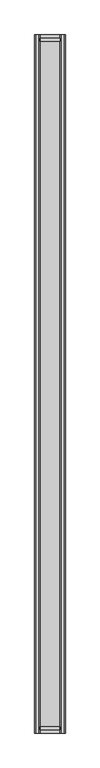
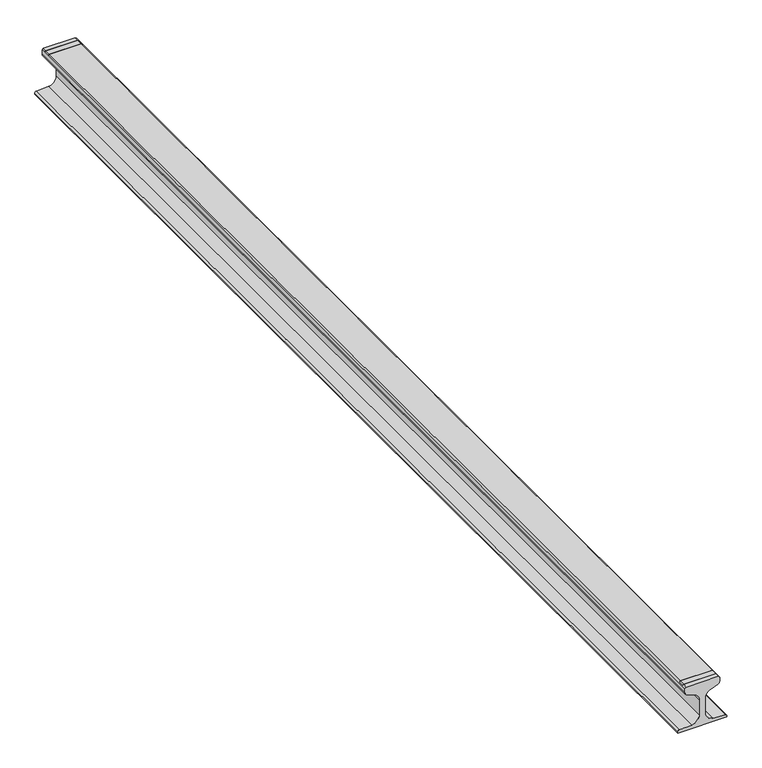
"""IFC4 building model written with IfcOpenShell, lengths in millimetres: proxy geometry, MTS-45S2.sat."""

from ifc_helpers import new_model, si_unit, frame, origin, place, context, project, spatial, polyline, circle_curve, outline, extrude, source, transform, mapped, element, save
from ifc_brep_helpers import plane_surface, cylinder_surface, revolved_surface, advanced_brep


def generic_models_4376c1b2(model_context):
    return source(origin(), model_context, "Body", "SolidModel", [
        advanced_brep(
        [(425.45, -27698.7, -25.4), (425.45, -27546.3, -25.4), (-425.45, -27546.3, -25.4), (-425.45, -27698.7, -25.4), (400.05, -27698.7, 0.0), (-400.05, -27698.7, 0.0), (400.05, -27546.3, 0.0), (-400.05, -27546.3, 0.0), (425.45, -266.7, -25.4), (425.45, -114.3, -25.4), (-425.45, -114.3, -25.4), (-425.45, -266.7, -25.4), (400.05, -266.7, 0.0), (-400.05, -266.7, 0.0), (400.05, -114.3, 0.0), (-400.05, -114.3, 0.0), (400.05, -27813.0, 0.0), (431.8, -27813.0, -31.75), (431.8, 0.0, -31.75), (400.05, 0.0, 0.0), (-400.05, 0.0, 0.0), (-400.05, -27813.0, 0.0), (-431.8, 0.0, -31.75), (-431.8, -27813.0, -31.75), (431.8, 0.0, -143.3194703), (431.8, -27813.0, -143.3194703), (390.5963385, 0.0, -202.776373), (390.5963385, -27813.0, -202.776373), (208.0517167, 0.0, -271.2306062), (208.0517167, -27813.0, -271.2306062), (76.2, 0.0, -461.4926951), (76.2, -27813.0, -461.4926951), (76.2, 0.0, -849.9355791), (76.2, -27813.0, -849.9355791), (267.3261324, 0.0, -1052.7765555), (267.3261324, -27813.0, -1052.7765555), (573.7638502, 0.0, -1071.0168958), (573.7638502, -27813.0, -1071.0168958), (609.6, 0.0, -1109.0495789), (609.6, -27813.0, -1109.0495789), (609.6, 0.0, -1143.0), (609.6, -27813.0, -1143.0), (-609.6, 0.0, -1143.0), (-609.6, -27813.0, -1143.0), (-609.6, 0.0, -1109.0495789), (-609.6, -27813.0, -1109.0495789), (-573.7638502, 0.0, -1071.0168958), (-573.7638502, -27813.0, -1071.0168958), (-267.3261324, 0.0, -1052.7765555), (-267.3261324, -27813.0, -1052.7765555), (-76.2, 0.0, -849.9355791), (-76.2, -27813.0, -849.9355791), (-76.2, 0.0, -461.4926951), (-76.2, -27813.0, -461.4926951), (-208.0517167, 0.0, -271.2306062), (-208.0517167, -27813.0, -271.2306062), (-390.5963385, 0.0, -202.776373), (-390.5963385, -27813.0, -202.776373), (-431.8, 0.0, -143.3194703), (-431.8, -27813.0, -143.3194703)],
        [
            (0, 1),
            (1, 2),
            (2, 3),
            (3, 0),
            (4, 0),
            (3, 5),
            (5, 4),
            (1, 6),
            (6, 7),
            (7, 2),
            (8, 9),
            (9, 10),
            (10, 11),
            (11, 8),
            (12, 8),
            (11, 13),
            (13, 12),
            (9, 14),
            (14, 15),
            (15, 10),
            (4, 16),
            (16, 17),
            (17, 18),
            (18, 19),
            (19, 14),
            (12, 6),
            (19, 20),
            (20, 15),
            (5, 21),
            (21, 16),
            (7, 13),
            (20, 22),
            (22, 23),
            (23, 21),
            (24, 18),
            (17, 25),
            (25, 24),
            (26, 24, circle_curve(frame((368.3, 0.0, -143.3194703), z_axis=(0.0, -1.0, 0.0), x_axis=(1.0, 0.0, 0.0)), 63.5)),
            (25, 27, circle_curve(frame((368.3, -27813.0, -143.3194703), z_axis=(0.0, 1.0, 0.0), x_axis=(1.0, 0.0, 0.0)), 63.5)),
            (27, 26),
            (28, 26),
            (27, 29),
            (29, 28),
            (30, 28, circle_curve(frame((279.4, 0.0, -461.4926951), z_axis=(0.0, 1.0, 0.0), x_axis=(1.0, 0.0, 0.0)), 203.2)),
            (29, 31, circle_curve(frame((279.4, -27813.0, -461.4926951), z_axis=(0.0, -1.0, 0.0), x_axis=(1.0, 0.0, 0.0)), 203.2)),
            (31, 30),
            (32, 30),
            (31, 33),
            (33, 32),
            (34, 32, circle_curve(frame((279.4, 0.0, -849.9355791), z_axis=(0.0, 1.0, 0.0), x_axis=(0.05941863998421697, 0.0, 0.9982331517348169)), 203.2)),
            (33, 35, circle_curve(frame((279.4, -27813.0, -849.9355791), z_axis=(0.0, -1.0, 0.0), x_axis=(0.05941863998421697, 0.0, 0.9982331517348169)), 203.2)),
            (35, 34),
            (36, 34),
            (35, 37),
            (37, 36),
            (38, 36, circle_curve(frame((571.5, 0.0, -1109.0495789), z_axis=(0.0, -1.0, 0.0), x_axis=(0.059418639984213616, 0.0, 0.9982331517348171)), 38.1)),
            (37, 39, circle_curve(frame((571.5, -27813.0, -1109.0495789), z_axis=(0.0, 1.0, 0.0), x_axis=(0.059418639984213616, 0.0, 0.9982331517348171)), 38.1)),
            (39, 38),
            (40, 38),
            (39, 41),
            (41, 40),
            (42, 40),
            (41, 43),
            (43, 42),
            (44, 42),
            (43, 45),
            (45, 44),
            (46, 44, circle_curve(frame((-571.5, 0.0, -1109.0495789), z_axis=(0.0, -1.0, 0.0), x_axis=(-1.0, 0.0, 0.0)), 38.1)),
            (45, 47, circle_curve(frame((-571.5, -27813.0, -1109.0495789), z_axis=(0.0, 1.0, 0.0), x_axis=(-1.0, 0.0, 0.0)), 38.1)),
            (47, 46),
            (48, 46),
            (47, 49),
            (49, 48),
            (50, 48, circle_curve(frame((-279.4, 0.0, -849.9355791), z_axis=(0.0, 1.0, 0.0), x_axis=(-1.0, 0.0, 0.0)), 203.2)),
            (49, 51, circle_curve(frame((-279.4, -27813.0, -849.9355791), z_axis=(0.0, -1.0, 0.0), x_axis=(-1.0, 0.0, 0.0)), 203.2)),
            (51, 50),
            (52, 50),
            (51, 53),
            (53, 52),
            (54, 52, circle_curve(frame((-279.4, 0.0, -461.4926951), z_axis=(0.0, 1.0, 0.0), x_axis=(-0.3511234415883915, 0.0, -0.9363291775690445)), 203.2)),
            (53, 55, circle_curve(frame((-279.4, -27813.0, -461.4926951), z_axis=(0.0, -1.0, 0.0), x_axis=(-0.3511234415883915, 0.0, -0.9363291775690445)), 203.2)),
            (55, 54),
            (56, 54),
            (55, 57),
            (57, 56),
            (58, 56, circle_curve(frame((-368.3, 0.0, -143.3194703), z_axis=(0.0, -1.0, 0.0), x_axis=(-0.35112344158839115, 0.0, -0.9363291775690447)), 63.5)),
            (57, 59, circle_curve(frame((-368.3, -27813.0, -143.3194703), z_axis=(0.0, 1.0, 0.0), x_axis=(-0.35112344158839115, 0.0, -0.9363291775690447)), 63.5)),
            (59, 58),
            (22, 58),
            (59, 23),
        ],
        [
            plane_surface(frame((431.8, -27546.3, -25.4), z_axis=(0.0, 0.0, 1.0), x_axis=(0.0, -1.0, 0.0))),
            plane_surface(frame((431.8, -27698.7, -25.4), z_axis=(0.0, 1.0, 0.0), x_axis=(0.0, 0.0, 1.0))),
            plane_surface(frame((431.8, -27546.3, 0.0), z_axis=(0.0, -1.0, 0.0), x_axis=(0.0, 0.0, -1.0))),
            plane_surface(frame((431.8, -114.3, -25.4), z_axis=(0.0, 0.0, 1.0), x_axis=(0.0, -1.0, 0.0))),
            plane_surface(frame((431.8, -266.7, -25.4), z_axis=(0.0, 1.0, 0.0), x_axis=(0.0, 0.0, 1.0))),
            plane_surface(frame((431.8, -114.3, 0.0), z_axis=(0.0, -1.0, 0.0), x_axis=(0.0, 0.0, -1.0))),
            plane_surface(frame((431.8, 0.0, -31.75), z_axis=(0.7071067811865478, 0.0, 0.7071067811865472), x_axis=(-0.7071067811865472, 0.0, 0.7071067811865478))),
            plane_surface(frame((400.05, 0.0, 0.0), z_axis=(0.0, 0.0, 1.0), x_axis=(-1.0, 0.0, 0.0))),
            plane_surface(frame((-400.05, 0.0, 0.0), z_axis=(-0.7071067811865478, 0.0, 0.7071067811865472), x_axis=(-0.7071067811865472, 0.0, -0.7071067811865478))),
            plane_surface(frame((431.8, 0.0, -143.3194703), z_axis=(1.0, 0.0, 0.0), x_axis=(0.0, 0.0, 1.0))),
            cylinder_surface(frame((368.3, 0.0, -143.3194703), z_axis=(0.0, -1.0, 0.0), x_axis=(1.0, 0.0, 0.0)), 63.5),
            plane_surface(frame((208.0517167, 0.0, -271.2306062), z_axis=(0.35112344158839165, 0.0, -0.9363291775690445), x_axis=(0.9363291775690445, 0.0, 0.35112344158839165))),
            revolved_surface(polyline([(482.59999999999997, -27813.0, -461.4926951), (482.59999999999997, 0.0, -461.4926951)]), (279.4, 0.0, -461.4926951), (0.0, -1.0, 0.0)),
            plane_surface(frame((76.2, 0.0, -849.9355791), z_axis=(1.0, 0.0, 0.0), x_axis=(0.0, 0.0, 1.0))),
            revolved_surface(polyline([(291.47386764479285, -27812.999999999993, -647.0946026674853), (291.47386764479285, 0.0, -647.0946026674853)]), (279.4, 0.0, -849.9355791), (0.0, -0.9999999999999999, 0.0)),
            plane_surface(frame((573.7638502, 0.0, -1071.0168958), z_axis=(0.05941863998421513, 0.0, 0.9982331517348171), x_axis=(-0.9982331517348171, 0.0, 0.05941863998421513))),
            cylinder_surface(frame((571.5, 0.0, -1109.0495789), z_axis=(0.0, -0.9999999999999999, 0.0), x_axis=(0.059418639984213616, 0.0, 0.9982331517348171)), 38.1),
            plane_surface(frame((609.6, 0.0, -1143.0), z_axis=(1.0, 0.0, 0.0), x_axis=(0.0, 0.0, 1.0))),
            plane_surface(frame((-609.6, 0.0, -1143.0), z_axis=(0.0, 0.0, -1.0), x_axis=(1.0, 0.0, 0.0))),
            plane_surface(frame((-609.6, 0.0, -1109.0495789), z_axis=(-1.0, 0.0, 0.0), x_axis=(0.0, 0.0, -1.0))),
            cylinder_surface(frame((-571.5, 0.0, -1109.0495789), z_axis=(0.0, -1.0, 0.0), x_axis=(-1.0, 0.0, 0.0)), 38.1),
            plane_surface(frame((-267.3261324, 0.0, -1052.7765555), z_axis=(-0.05941863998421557, 0.0, 0.9982331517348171), x_axis=(-0.9982331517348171, 0.0, -0.05941863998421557))),
            revolved_surface(polyline([(-482.59999999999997, -27813.0, -849.9355791), (-482.59999999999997, 0.0, -849.9355791)]), (-279.4, 0.0, -849.9355791), (0.0, -1.0, 0.0)),
            plane_surface(frame((-76.2, 0.0, -461.4926951), z_axis=(-1.0, 0.0, 0.0), x_axis=(0.0, 0.0, -1.0))),
            revolved_surface(polyline([(-350.7482833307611, -27812.999999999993, -651.7547839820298), (-350.7482833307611, 0.0, -651.7547839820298)]), (-279.4, 0.0, -461.4926951), (0.0, -0.9999999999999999, 0.0)),
            plane_surface(frame((-390.5963385, 0.0, -202.776373), z_axis=(-0.35112344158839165, 0.0, -0.9363291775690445), x_axis=(0.9363291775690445, 0.0, -0.35112344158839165))),
            cylinder_surface(frame((-368.3, 0.0, -143.3194703), z_axis=(0.0, -0.9999999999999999, 0.0), x_axis=(-0.35112344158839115, 0.0, -0.9363291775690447)), 63.5),
            plane_surface(frame((-431.8, 0.0, -31.75), z_axis=(-1.0, 0.0, 0.0), x_axis=(0.0, 0.0, -1.0))),
            plane_surface(frame((0.0, 0.0, -571.5), z_axis=(0.0, 1.0, 0.0), x_axis=(0.0, 0.0, 1.0))),
            plane_surface(frame((0.0, -27813.0, -571.5), z_axis=(0.0, -1.0, 0.0), x_axis=(0.0, 0.0, 1.0))),
        ],
        [
            (0, [[1, 2, 3, 4]]),
            (1, [[5, -4, 6, 7]]),
            (2, [[8, 9, 10, -2]]),
            (3, [[11, 12, 13, 14]]),
            (4, [[15, -14, 16, 17]]),
            (5, [[18, 19, 20, -12]]),
            (6, [[-8, -1, -5, 21, 22, 23, 24, 25, -18, -11, -15, 26]]),
            (7, [[-19, -25, 27, 28]]),
            (7, [[-7, 29, 30, -21]]),
            (8, [[-6, -3, -10, 31, -16, -13, -20, -28, 32, 33, 34, -29]]),
            (9, [[35, -23, 36, 37]]),
            (10, [[38, -37, 39, 40]]),
            (11, [[41, -40, 42, 43]]),
            (12, [[44, -43, 45, 46]]),
            (13, [[47, -46, 48, 49]]),
            (14, [[50, -49, 51, 52]]),
            (15, [[53, -52, 54, 55]]),
            (16, [[56, -55, 57, 58]]),
            (17, [[59, -58, 60, 61]]),
            (18, [[62, -61, 63, 64]]),
            (19, [[65, -64, 66, 67]]),
            (20, [[68, -67, 69, 70]]),
            (21, [[71, -70, 72, 73]]),
            (22, [[74, -73, 75, 76]]),
            (23, [[77, -76, 78, 79]]),
            (24, [[80, -79, 81, 82]]),
            (25, [[83, -82, 84, 85]]),
            (26, [[86, -85, 87, 88]]),
            (27, [[89, -88, 90, -33]]),
            (7, [[-9, -26, -17, -31]]),
            (28, [[-27, -24, -35, -38, -41, -44, -47, -50, -53, -56, -59, -62, -65, -68, -71, -74, -77, -80, -83, -86, -89, -32]]),
            (29, [[-30, -34, -90, -87, -84, -81, -78, -75, -72, -69, -66, -63, -60, -57, -54, -51, -48, -45, -42, -39, -36, -22]]),
        ],
    ),
        extrude(outline(polyline([(-25.4, 425.45), (0.0, 400.05), (0.0, -400.05), (-25.4, -425.45), (-25.4, 425.45)])), frame((0.0, -266.7, 0.0), z_axis=(0.0, 1.0, 0.0), x_axis=(0.0, 0.0, 1.0)), (0.0, 0.0, 1.0), 152.4),
        extrude(outline(polyline([(0.0, -400.05), (-25.4, -425.45), (-25.4, 425.45), (0.0, 400.05), (0.0, -400.05)])), frame((0.0, -27698.7, 0.0), z_axis=(0.0, 1.0, 0.0), x_axis=(0.0, 0.0, 1.0)), (0.0, 0.0, 1.0), 152.4),
    ])


if __name__ == "__main__":
    model = new_model("IFC4")
    model_context = context("Model", 3, world=origin())
    ifc_project = project(units=[si_unit("LENGTHUNIT", "METRE", prefix="MILLI")], contexts=[model_context])
    site = spatial("IfcSite", under=ifc_project)
    building = spatial("IfcBuilding", under=site)
    placement = place(None, origin())
    generic_models_shape = generic_models_4376c1b2(model_context)
    element("IfcBuildingElementProxy", 1, Name="MTS-45S2.sat", ObjectType="MTS-45S2.sat", at=placement, inside=building, context=model_context, shape_type="MappedRepresentation", body=[
        mapped(generic_models_shape, transform((0.0, 0.0, 0.0), x_axis=(1.0, 0.0, 0.0), y_axis=(0.0, 1.0, 0.0), z_axis=(0.0, 0.0, 1.0))),
    ])
    save(model, "model.ifc")
